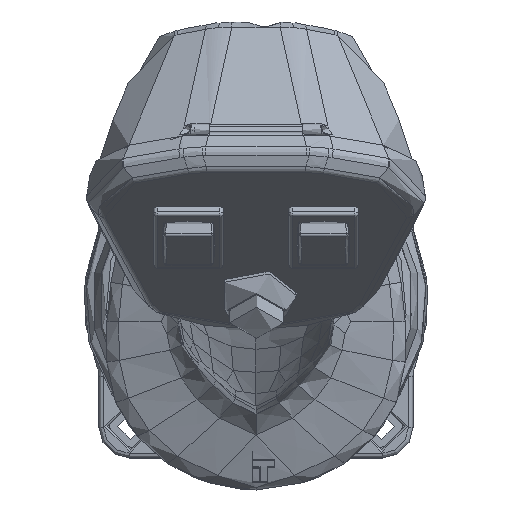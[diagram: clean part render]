
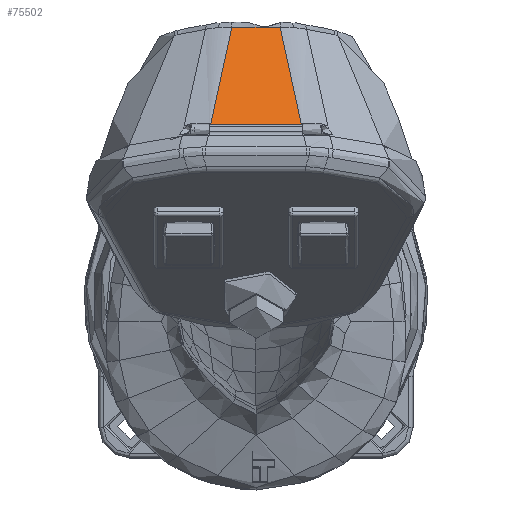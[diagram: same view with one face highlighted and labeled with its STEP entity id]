
A CAD part, top view. The second image highlights one B-rep face of the part: STEP entity #75502.
In plain terms, the highlighted planar face has unit normal (0, 0.712, 0.702).
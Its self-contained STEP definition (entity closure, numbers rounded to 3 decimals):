
#1232=PLANE('',#82222);
#5082=B_SPLINE_CURVE_WITH_KNOTS('',3,(#166635,#166636,#166637,#166638),
 .UNSPECIFIED.,.F.,.F.,(4,4),(0.,0.91),.UNSPECIFIED.);
#5088=B_SPLINE_CURVE_WITH_KNOTS('',3,(#166741,#166742,#166743,#166744),
 .UNSPECIFIED.,.F.,.F.,(4,4),(0.09,1.),.UNSPECIFIED.);
#9893=FACE_OUTER_BOUND('',#14471,.T.);
#14471=EDGE_LOOP('',(#57427,#57428,#57429,#57430));
#18506=LINE('',#166775,#22586);
#22586=VECTOR('',#94758,10.);
#27558=CIRCLE('',#82223,1941.837);
#31827=VERTEX_POINT('',#166629);
#31828=VERTEX_POINT('',#166634);
#31837=VERTEX_POINT('',#166738);
#31838=VERTEX_POINT('',#166740);
#40877=EDGE_CURVE('',#31828,#31827,#5082,.T.);
#40890=EDGE_CURVE('',#31838,#31837,#5088,.T.);
#40903=EDGE_CURVE('',#31827,#31838,#18506,.T.);
#40932=EDGE_CURVE('',#31837,#31828,#27558,.T.);
#57427=ORIENTED_EDGE('',*,*,#40903,.T.);
#57428=ORIENTED_EDGE('',*,*,#40890,.T.);
#57429=ORIENTED_EDGE('',*,*,#40932,.T.);
#57430=ORIENTED_EDGE('',*,*,#40877,.T.);
#75502=ADVANCED_FACE('',(#9893),#1232,.F.);
#82222=AXIS2_PLACEMENT_3D('',#166959,#94788,#94789);
#82223=AXIS2_PLACEMENT_3D('',#166960,#94790,#94791);
#94758=DIRECTION('',(1.,0.,0.));
#94788=DIRECTION('center_axis',(0.,-0.712,
-0.702));
#94789=DIRECTION('ref_axis',(0.,0.702,-0.712));
#94790=DIRECTION('center_axis',(0.,-0.712,
-0.702));
#94791=DIRECTION('ref_axis',(-0.003,-0.702,0.712));
#166629=CARTESIAN_POINT('',(-9.756,37.558,216.859));
#166634=CARTESIAN_POINT('',(-5.187,58.455,195.682));
#166635=CARTESIAN_POINT('Ctrl Pts',(-5.187,58.455,
195.682));
#166636=CARTESIAN_POINT('Ctrl Pts',(-6.709,51.489,202.741));
#166637=CARTESIAN_POINT('Ctrl Pts',(-8.232,44.524,209.8));
#166638=CARTESIAN_POINT('Ctrl Pts',(-9.756,37.558,
216.859));
#166738=CARTESIAN_POINT('',(5.187,58.455,195.682));
#166740=CARTESIAN_POINT('',(9.756,37.558,216.859));
#166741=CARTESIAN_POINT('Ctrl Pts',(9.756,37.558,216.859));
#166742=CARTESIAN_POINT('Ctrl Pts',(8.232,44.524,209.8));
#166743=CARTESIAN_POINT('Ctrl Pts',(6.709,51.489,202.741));
#166744=CARTESIAN_POINT('Ctrl Pts',(5.187,58.455,195.682));
#166775=CARTESIAN_POINT('',(-5.364,37.558,216.859));
#166959=CARTESIAN_POINT('Origin',(-10.727,46.53,207.766));
#166960=CARTESIAN_POINT('Origin',(0.,1422.338,
-1186.535));
